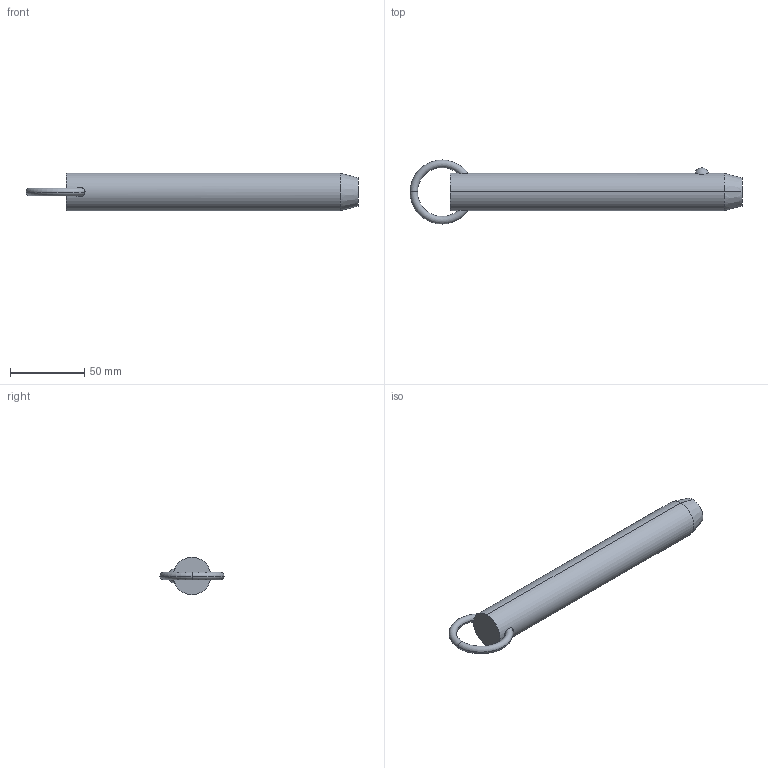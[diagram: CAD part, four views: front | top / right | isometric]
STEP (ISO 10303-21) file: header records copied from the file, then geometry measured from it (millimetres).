
FILE_DESCRIPTION (( 'STEP AP203' ), '1' );
FILE_NAME ('33010.W1060.step', '2024-11-01T10:48:36', ( '' ), ( '' ), 'SwSTEP 2.0', 'SolidWorks 2019', '' );
FILE_SCHEMA (( 'CONFIG_CONTROL_DESIGN' ));
Length unit declared in the file: millimetre
Products named in the file (3): Part1_33010.W1060; Part2_33010.W1060; 33010.W1060
Assembly tree (2 placements, depth 2):
  33010.W1060
    Part1_33010.W1060
    Part2_33010.W1060
Bounding box: 223.98 x 43.18 x 25.4 mm (x, y, z)
Volume: 100081.1 mm3; surface area: 18832.4 mm2
Topology: 2 solids, 2 shells, 18 faces, 37 edges, 22 vertices
Faces by surface type: torus 8, plane 4, sphere 2, cone 2, cylinder 2
Entity records: 975 total; most frequent: CARTESIAN_POINT 280, DIRECTION 100, ORIENTED_EDGE 74, AXIS2_PLACEMENT_3D 48, EDGE_CURVE 37, PERSON_AND_ORGANIZATION 26, CIRCLE 25, VERTEX_POINT 22
